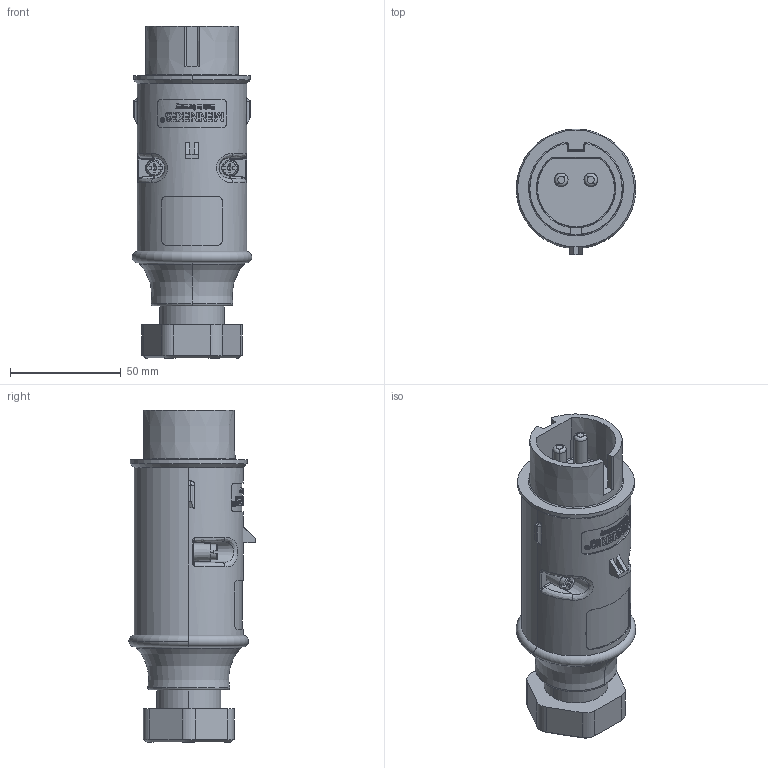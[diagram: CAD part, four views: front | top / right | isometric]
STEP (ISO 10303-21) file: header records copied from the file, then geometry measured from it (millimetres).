
FILE_DESCRIPTION((''),'2;1');
FILE_NAME('1115165_ASM_SW0001','2018-02-05T',('gisse'),('MENNEKES'),'PRO/ENGINEER BY PARAMETRIC TECHNOLOGY CORPORATION, 2015440','PRO/ENGINEER BY PARAMETRIC TECHNOLOGY CORPORATION, 2015440','');
FILE_SCHEMA(('AUTOMOTIVE_DESIGN { 1 0 10303 214 1 1 1 1 }'));
Length unit declared in the file: millimetre
Products named in the file (1): 1115165_ASM_SW0001
Bounding box: 54 x 57 x 150 mm (x, y, z)
Volume: 220348.6 mm3; surface area: 31649.3 mm2
Topology: 1 solids, 1 shells, 625 faces, 1654 edges, 1073 vertices
Faces by surface type: plane 320, extrusion 106, cylinder 102, bspline 32, torus 31, cone 30, sphere 4
Entity records: 29712 total; most frequent: CARTESIAN_POINT 7476, ORIENTED_EDGE 3300, DIRECTION 2544, EDGE_CURVE 1650, FILL_AREA_STYLE_COLOUR 1125, FILL_AREA_STYLE 1125, SURFACE_STYLE_FILL_AREA 1125, SURFACE_SIDE_STYLE 1125
